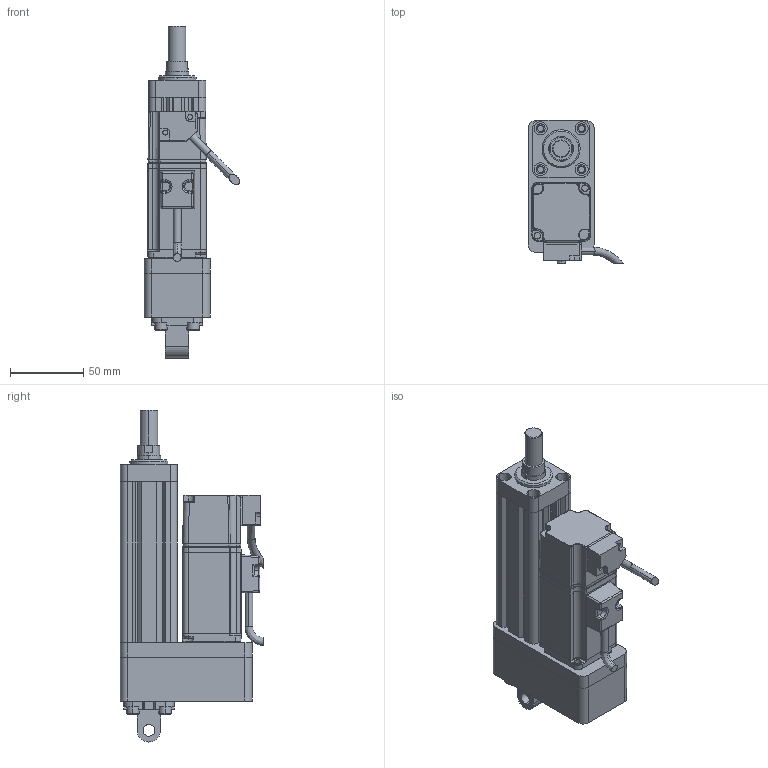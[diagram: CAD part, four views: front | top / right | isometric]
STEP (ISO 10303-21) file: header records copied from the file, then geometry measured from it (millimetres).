
FILE_DESCRIPTION (( 'STEP AP214' ), '1' );
FILE_NAME ('039-S50-D02-B-M5-C1-2.STEP', '2021-03-02T05:05:51', ( '' ), ( '' ), 'SwSTEP 2.0', 'SolidWorks 2018', '' );
FILE_SCHEMA (( 'AUTOMOTIVE_DESIGN' ));
Length unit declared in the file: millimetre
Products named in the file (8): F-ACE20CA_ACE_; 039-S50-D02-B-M5-C1-2; CMC039-LJB; ECMA-CX0401ES-40框號系列機種-100W低慣量系列; CMC039-HXT; CMC039-FL; CMC039-GT; CMC039-DT
Assembly tree (7 placements, depth 2):
  039-S50-D02-B-M5-C1-2
    CMC039-GT
    CMC039-LJB
    CMC039-FL
    CMC039-DT
    ECMA-CX0401ES-40框號系列機種-100W低慣量系列
    CMC039-HXT
    F-ACE20CA_ACE_
Bounding box: 65.34 x 97.89 x 227 mm (x, y, z)
Volume: 392042.1 mm3; surface area: 114481.8 mm2
Topology: 7 solids, 15 shells, 765 faces, 1996 edges, 1251 vertices
Faces by surface type: cylinder 321, plane 303, bspline 92, cone 49
Entity records: 29810 total; most frequent: CARTESIAN_POINT 11648, ORIENTED_EDGE 3926, DIRECTION 3331, EDGE_CURVE 1963, VERTEX_POINT 1251, AXIS2_PLACEMENT_3D 1181, LINE 969, VECTOR 969
